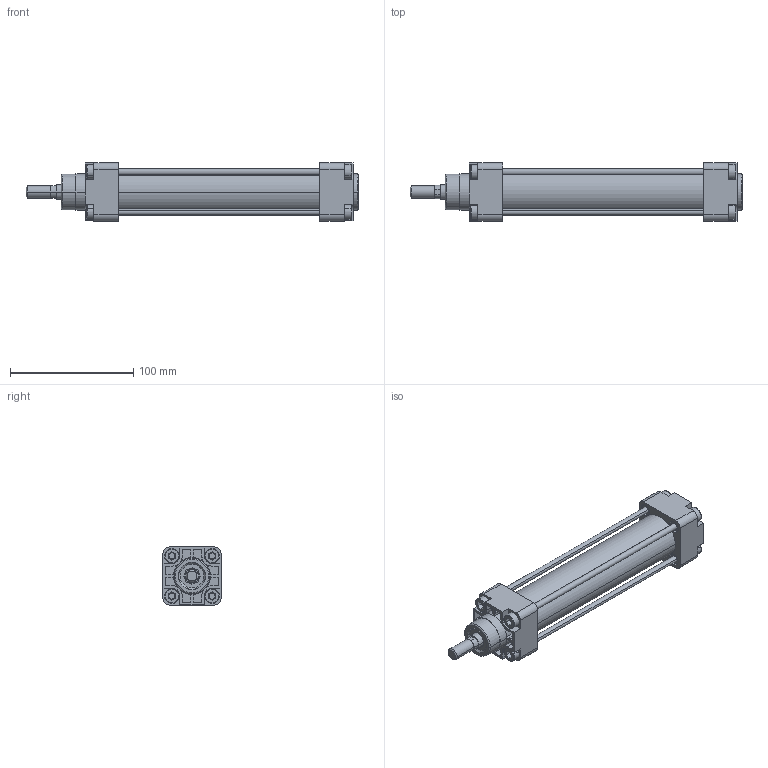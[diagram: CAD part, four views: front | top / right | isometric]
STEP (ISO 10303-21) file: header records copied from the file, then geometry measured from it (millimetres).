
FILE_DESCRIPTION(('CATIA V5 STEP Exchange'),'2;1');
FILE_NAME('D:\stp file for catalog\PNC\32\PNC 32-12-100.stp','2015-05-25T07:47:14+00:00',('none'),('none'),'Version 5-6 Release 2012','CATIA V5 STEP AP203','none');
FILE_SCHEMA(('CONFIG_CONTROL_DESIGN'));
Length unit declared in the file: millimetre
Products named in the file (1): PNC 32-12-100-00
Assembly tree (2 placements, depth 2):
  PNC 32-12-100-00
    #58
    #15737
Bounding box: 269 x 47 x 47 mm (x, y, z)
Volume: 199630.6 mm3; surface area: 96824.8 mm2
Topology: 6 solids, 6 shells, 587 faces, 1488 edges, 974 vertices
Faces by surface type: plane 359, cylinder 166, torus 26, cone 20, extrusion 16
Entity records: 16261 total; most frequent: CARTESIAN_POINT 3407, ORIENTED_EDGE 2976, DIRECTION 1948, EDGE_CURVE 1488, VERTEX_POINT 974, VECTOR 896, LINE 880, AXIS2_PLACEMENT_3D 773
